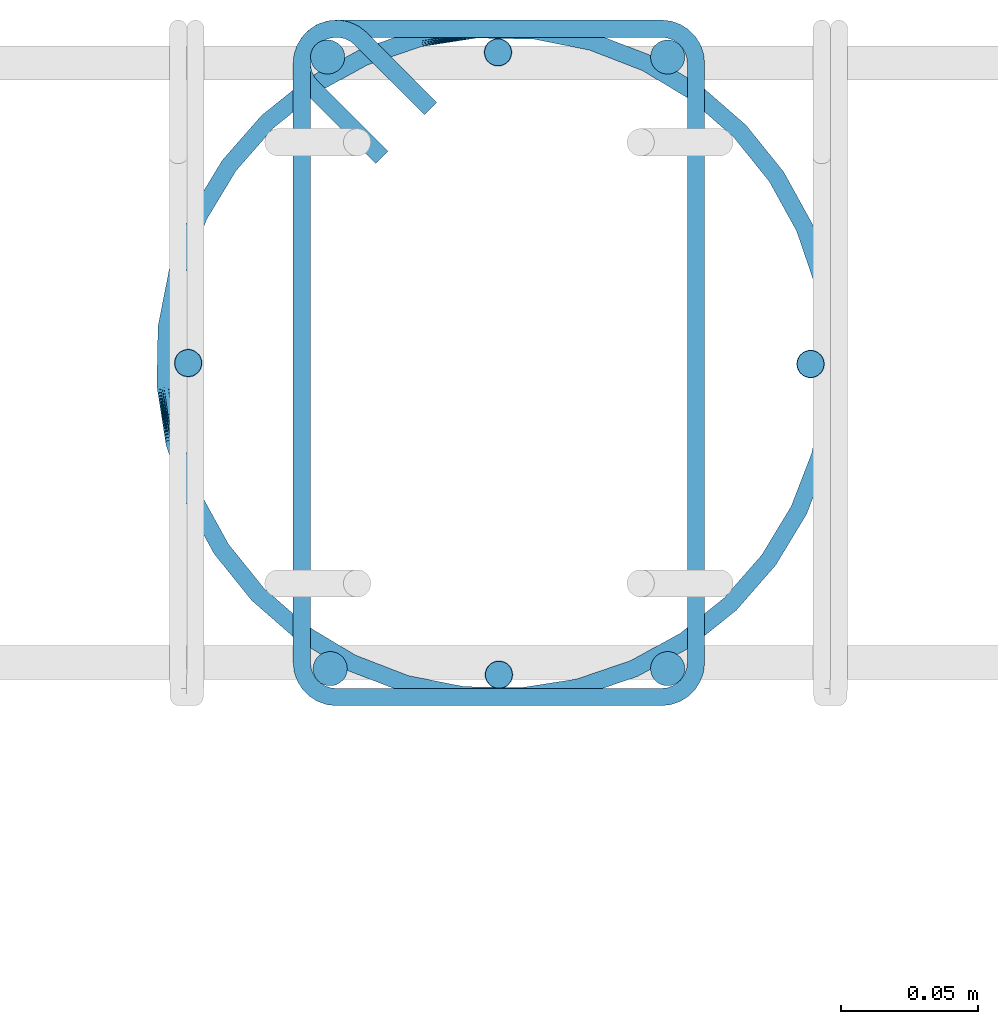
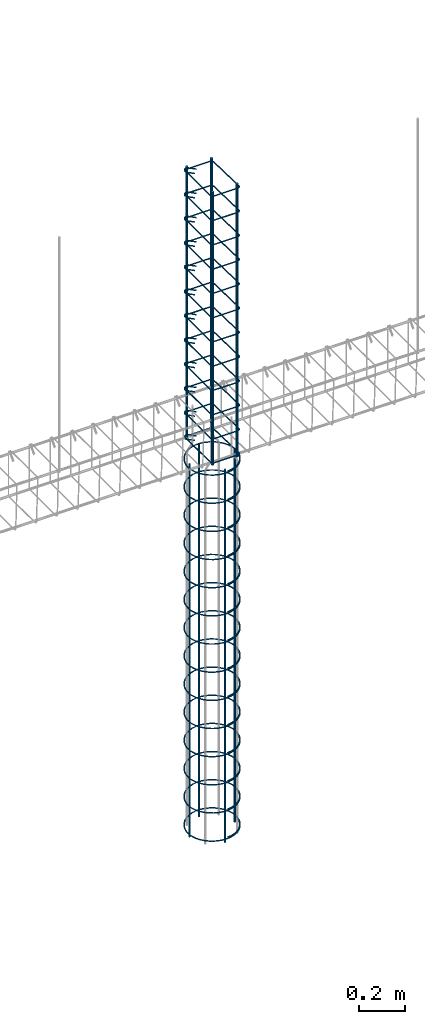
# One storey, part 6 of 14: 6 reinforcing bars.
"""IFC4 building model written with IfcOpenShell, lengths in centimetres."""

from ifc_helpers import new_model, entity, si_unit, converted_unit, derived_unit, direction, frame, origin, place, context, subcontext, project, spatial, type_object, element, save


model = new_model("IFC4")

# Units and contexts
model_context = context("Model", 3, precision=0.001, world=origin(), true_north=direction((6.123233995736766e-17, 1.0)))
body_context = subcontext(model_context, "Body", "Model", "MODEL_VIEW")
ifc_project = project(units=[si_unit("LENGTHUNIT", "METRE", prefix="CENTI"), si_unit("AREAUNIT", "SQUARE_METRE"), converted_unit("PLANEANGLEUNIT", "DEGREE", entity("IfcPlaneAngleMeasure", 0.017453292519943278), si_unit("PLANEANGLEUNIT", "RADIAN"), dimensions=[0, 0, 0, 0, 0, 0, 0]), si_unit("VOLUMEUNIT", "CUBIC_METRE"), derived_unit("THERMALTRANSMITTANCEUNIT", [(si_unit("MASSUNIT", "GRAM", prefix="KILO"), 1), (si_unit("THERMODYNAMICTEMPERATUREUNIT", "KELVIN"), -1), (si_unit("TIMEUNIT", "SECOND"), -3)])], contexts=[model_context])

# Site, building, storey
site_placement = place(None, origin())
site = spatial("IfcSite", under=ifc_project, at=site_placement, Name="Default", CompositionType="ELEMENT")
building_placement = place(site_placement, origin())
building = spatial("IfcBuilding", under=site, at=building_placement, Name="CONTENÇÃO DE ARQUIBANCADA - GINÁSIO PADRÃO", CompositionType="ELEMENT")
storey_placement = place(building_placement, frame((0.0, 0.0, -100.0)))
storey = spatial("IfcBuildingStorey", under=building, at=storey_placement, Name="Nível 3", CompositionType="ELEMENT", Elevation=-100.0)

# Reinforcing bars
reinforcing_bar_type_1 = type_object("IfcReinforcingBarType", Name="Barra do vergalhão:10 CA-50", PredefinedType="NOTDEFINED")
reinforcing_bar_1_placement = place(storey_placement, origin())
element("IfcReinforcingBar", 1, at=reinforcing_bar_1_placement, inside=storey, type_object=reinforcing_bar_type_1, Name="Barra do vergalhão:10 CA-50 : Forma 01", ObjectType="Barra do vergalhão:10 CA-50", context=body_context, shape_type="AdvancedSweptSolid", body=[
    entity("IfcSweptDiskSolid", entity("IfcIndexedPolyCurve", entity("IfcCartesianPointList3D", [[183.12673343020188, 249.06545923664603, -129.99999999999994], [183.12673343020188, 249.06545923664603, 68.00000000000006]]), None, False), 0.5, None, 0.0, 1.0),
    entity("IfcSweptDiskSolid", entity("IfcIndexedPolyCurve", entity("IfcCartesianPointList3D", [[205.81660058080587, 249.0327573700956, -129.99999999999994], [205.81660058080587, 249.0327573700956, 68.00000000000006]]), None, False), 0.5, None, 0.0, 1.0),
])
reinforcing_bar_2_placement = place(storey_placement, origin())
element("IfcReinforcingBar", 2, at=reinforcing_bar_2_placement, inside=storey, type_object=reinforcing_bar_type_1, Name="Barra do vergalhão:10 CA-50 : Forma 01", ObjectType="Barra do vergalhão:10 CA-50", context=body_context, shape_type="AdvancedSweptSolid", body=[
    entity("IfcSweptDiskSolid", entity("IfcIndexedPolyCurve", entity("IfcCartesianPointList3D", [[194.4226142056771, 260.39404187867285, -129.99999999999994], [194.4226142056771, 260.39404187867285, 68.00000000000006]]), None, False), 0.5, None, 0.0, 1.0),
    entity("IfcSweptDiskSolid", entity("IfcIndexedPolyCurve", entity("IfcCartesianPointList3D", [[194.45531607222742, 237.70417472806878, -129.99999999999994], [194.45531607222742, 237.70417472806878, 68.00000000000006]]), None, False), 0.5, None, 0.0, 1.0),
])
reinforcing_bar_type_2 = type_object("IfcReinforcingBarType", Name="Barra do vergalhão:12.5 CA-50", PredefinedType="NOTDEFINED")
reinforcing_bar_3_placement = place(storey_placement, origin())
element("IfcReinforcingBar", 3, at=reinforcing_bar_3_placement, inside=storey, type_object=reinforcing_bar_type_2, Name="Barra do vergalhão:12.5 CA-50 : Forma 01", ObjectType="Barra do vergalhão:12.5 CA-50", context=body_context, shape_type="AdvancedSweptSolid", body=[
    entity("IfcSweptDiskSolid", entity("IfcIndexedPolyCurve", entity("IfcCartesianPointList3D", [[200.60659024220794, 260.22544939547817, 72.5], [200.60659024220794, 260.22544939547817, 217.5]]), None, False), 0.625, None, 0.0, 1.0),
    entity("IfcSweptDiskSolid", entity("IfcIndexedPolyCurve", entity("IfcCartesianPointList3D", [[188.21031607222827, 260.22544939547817, 72.5], [188.21031607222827, 260.22544939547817, 217.5]]), None, False), 0.625, None, 0.0, 1.0),
])
reinforcing_bar_4_placement = place(storey_placement, origin())
element("IfcReinforcingBar", 4, at=reinforcing_bar_4_placement, inside=storey, type_object=reinforcing_bar_type_2, Name="Barra do vergalhão:12.5 CA-50 : Forma 01", ObjectType="Barra do vergalhão:12.5 CA-50", context=body_context, shape_type="AdvancedSweptSolid", body=[
    entity("IfcSweptDiskSolid", entity("IfcIndexedPolyCurve", entity("IfcCartesianPointList3D", [[188.30404190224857, 237.92290105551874, 72.5], [188.30404190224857, 237.92290105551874, 217.5]]), None, False), 0.625, None, 0.0, 1.0),
    entity("IfcSweptDiskSolid", entity("IfcIndexedPolyCurve", entity("IfcCartesianPointList3D", [[200.60659024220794, 237.92290105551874, 72.5], [200.60659024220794, 237.92290105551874, 217.5]]), None, False), 0.625, None, 0.0, 1.0),
])
reinforcing_bar_type_3 = type_object("IfcReinforcingBarType", Name="Barra do vergalhão:6.3 CA-50", PredefinedType="NOTDEFINED")
reinforcing_bar_5_placement = place(storey_placement, origin())
element("IfcReinforcingBar", 5, at=reinforcing_bar_5_placement, inside=storey, type_object=reinforcing_bar_type_3, Name="Barra do vergalhão:6.3 CA-50 : Forma 22", ObjectType="Barra do vergalhão:6.3 CA-50", context=body_context, shape_type="AdvancedSweptSolid", body=[
    entity("IfcSweptDiskSolid", entity("IfcIndexedPolyCurve", entity("IfcCartesianPointList3D", [[191.97123551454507, 258.34016487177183, 74.0272184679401], [189.42127061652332, 260.8901297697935, 74.0272184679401], [188.04813494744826, 261.16326343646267, 74.0272184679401], [187.27031607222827, 259.99917522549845, 74.0272184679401], [187.27031607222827, 238.14917522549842, 74.0272184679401], [187.6393615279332, 237.2582206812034, 74.0272184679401], [188.5303160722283, 236.88917522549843, 74.0272184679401], [200.38031607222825, 236.88917522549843, 74.0272184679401], [201.27127061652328, 237.25809742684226, 74.01768129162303], [201.64031607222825, 238.14875440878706, 73.99465651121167], [201.64031607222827, 259.9995960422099, 73.42978042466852], [201.2712706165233, 260.8902530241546, 73.40675564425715], [200.38031607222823, 261.2591752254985, 73.39721846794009], [188.53031607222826, 261.25917522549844, 73.39721846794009], [187.36622786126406, 260.4813563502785, 73.39721846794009], [187.63936152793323, 259.1082206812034, 73.39721846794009], [190.18932642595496, 256.55825578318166, 73.39721846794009]]), [entity("IfcLineIndex", [1, 2]), entity("IfcArcIndex", [2, 3, 4]), entity("IfcLineIndex", [4, 5]), entity("IfcArcIndex", [5, 6, 7]), entity("IfcLineIndex", [7, 8]), entity("IfcArcIndex", [8, 9, 10]), entity("IfcLineIndex", [10, 11]), entity("IfcArcIndex", [11, 12, 13]), entity("IfcLineIndex", [13, 14]), entity("IfcArcIndex", [14, 15, 16]), entity("IfcLineIndex", [16, 17])], False), 0.31499999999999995, None, 0.0, 546.0000000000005),
    entity("IfcSweptDiskSolid", entity("IfcIndexedPolyCurve", entity("IfcCartesianPointList3D", [[191.97123551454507, 258.34016487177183, 86.91060517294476], [189.42127061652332, 260.8901297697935, 86.91060517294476], [188.04813494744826, 261.16326343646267, 86.91060517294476], [187.27031607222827, 259.99917522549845, 86.91060517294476], [187.27031607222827, 238.14917522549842, 86.91060517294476], [187.6393615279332, 237.2582206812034, 86.91060517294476], [188.5303160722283, 236.88917522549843, 86.91060517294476], [200.38031607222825, 236.88917522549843, 86.91060517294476], [201.27127061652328, 237.25809742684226, 86.9010679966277], [201.64031607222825, 238.14875440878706, 86.87804321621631], [201.64031607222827, 259.9995960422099, 86.31316712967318], [201.2712706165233, 260.8902530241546, 86.29014234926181], [200.38031607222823, 261.2591752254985, 86.28060517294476], [188.53031607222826, 261.25917522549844, 86.28060517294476], [187.36622786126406, 260.4813563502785, 86.28060517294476], [187.63936152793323, 259.1082206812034, 86.28060517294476], [190.18932642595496, 256.55825578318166, 86.28060517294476]]), [entity("IfcLineIndex", [1, 2]), entity("IfcArcIndex", [2, 3, 4]), entity("IfcLineIndex", [4, 5]), entity("IfcArcIndex", [5, 6, 7]), entity("IfcLineIndex", [7, 8]), entity("IfcArcIndex", [8, 9, 10]), entity("IfcLineIndex", [10, 11]), entity("IfcArcIndex", [11, 12, 13]), entity("IfcLineIndex", [13, 14]), entity("IfcArcIndex", [14, 15, 16]), entity("IfcLineIndex", [16, 17])], False), 0.31499999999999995, None, 0.0, 546.0000000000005),
    entity("IfcSweptDiskSolid", entity("IfcIndexedPolyCurve", entity("IfcCartesianPointList3D", [[191.97123551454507, 258.34016487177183, 99.79399187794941], [189.42127061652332, 260.8901297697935, 99.79399187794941], [188.04813494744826, 261.16326343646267, 99.79399187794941], [187.27031607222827, 259.99917522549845, 99.79399187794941], [187.27031607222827, 238.14917522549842, 99.79399187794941], [187.6393615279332, 237.2582206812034, 99.79399187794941], [188.5303160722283, 236.88917522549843, 99.79399187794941], [200.38031607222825, 236.88917522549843, 99.79399187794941], [201.27127061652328, 237.25809742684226, 99.78445470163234], [201.64031607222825, 238.14875440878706, 99.76142992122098], [201.64031607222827, 259.9995960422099, 99.19655383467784], [201.2712706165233, 260.8902530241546, 99.17352905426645], [200.38031607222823, 261.2591752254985, 99.1639918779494], [188.53031607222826, 261.25917522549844, 99.1639918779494], [187.36622786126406, 260.4813563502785, 99.1639918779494], [187.63936152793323, 259.1082206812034, 99.1639918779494], [190.18932642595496, 256.55825578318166, 99.1639918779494]]), [entity("IfcLineIndex", [1, 2]), entity("IfcArcIndex", [2, 3, 4]), entity("IfcLineIndex", [4, 5]), entity("IfcArcIndex", [5, 6, 7]), entity("IfcLineIndex", [7, 8]), entity("IfcArcIndex", [8, 9, 10]), entity("IfcLineIndex", [10, 11]), entity("IfcArcIndex", [11, 12, 13]), entity("IfcLineIndex", [13, 14]), entity("IfcArcIndex", [14, 15, 16]), entity("IfcLineIndex", [16, 17])], False), 0.31499999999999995, None, 0.0, 546.0000000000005),
    entity("IfcSweptDiskSolid", entity("IfcIndexedPolyCurve", entity("IfcCartesianPointList3D", [[191.97123551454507, 258.34016487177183, 112.67737858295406], [189.42127061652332, 260.8901297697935, 112.67737858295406], [188.04813494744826, 261.16326343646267, 112.67737858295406], [187.27031607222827, 259.99917522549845, 112.67737858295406], [187.27031607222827, 238.14917522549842, 112.67737858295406], [187.6393615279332, 237.2582206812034, 112.67737858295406], [188.5303160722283, 236.88917522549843, 112.67737858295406], [200.38031607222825, 236.88917522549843, 112.67737858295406], [201.27127061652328, 237.25809742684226, 112.66784140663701], [201.64031607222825, 238.14875440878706, 112.64481662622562], [201.64031607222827, 259.9995960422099, 112.07994053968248], [201.2712706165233, 260.8902530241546, 112.05691575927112], [200.38031607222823, 261.2591752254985, 112.04737858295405], [188.53031607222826, 261.25917522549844, 112.04737858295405], [187.36622786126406, 260.4813563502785, 112.04737858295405], [187.63936152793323, 259.1082206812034, 112.04737858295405], [190.18932642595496, 256.55825578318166, 112.04737858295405]]), [entity("IfcLineIndex", [1, 2]), entity("IfcArcIndex", [2, 3, 4]), entity("IfcLineIndex", [4, 5]), entity("IfcArcIndex", [5, 6, 7]), entity("IfcLineIndex", [7, 8]), entity("IfcArcIndex", [8, 9, 10]), entity("IfcLineIndex", [10, 11]), entity("IfcArcIndex", [11, 12, 13]), entity("IfcLineIndex", [13, 14]), entity("IfcArcIndex", [14, 15, 16]), entity("IfcLineIndex", [16, 17])], False), 0.31499999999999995, None, 0.0, 546.0000000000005),
    entity("IfcSweptDiskSolid", entity("IfcIndexedPolyCurve", entity("IfcCartesianPointList3D", [[191.97123551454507, 258.34016487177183, 125.56076528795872], [189.42127061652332, 260.8901297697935, 125.56076528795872], [188.04813494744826, 261.16326343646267, 125.56076528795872], [187.27031607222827, 259.99917522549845, 125.56076528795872], [187.27031607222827, 238.14917522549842, 125.56076528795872], [187.6393615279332, 237.2582206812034, 125.56076528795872], [188.5303160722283, 236.88917522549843, 125.56076528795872], [200.38031607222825, 236.88917522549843, 125.56076528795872], [201.27127061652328, 237.25809742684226, 125.55122811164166], [201.64031607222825, 238.14875440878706, 125.52820333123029], [201.64031607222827, 259.9995960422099, 124.96332724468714], [201.2712706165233, 260.8902530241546, 124.94030246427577], [200.38031607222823, 261.2591752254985, 124.93076528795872], [188.53031607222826, 261.25917522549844, 124.93076528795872], [187.36622786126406, 260.4813563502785, 124.93076528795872], [187.63936152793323, 259.1082206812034, 124.93076528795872], [190.18932642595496, 256.55825578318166, 124.93076528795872]]), [entity("IfcLineIndex", [1, 2]), entity("IfcArcIndex", [2, 3, 4]), entity("IfcLineIndex", [4, 5]), entity("IfcArcIndex", [5, 6, 7]), entity("IfcLineIndex", [7, 8]), entity("IfcArcIndex", [8, 9, 10]), entity("IfcLineIndex", [10, 11]), entity("IfcArcIndex", [11, 12, 13]), entity("IfcLineIndex", [13, 14]), entity("IfcArcIndex", [14, 15, 16]), entity("IfcLineIndex", [16, 17])], False), 0.31499999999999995, None, 0.0, 546.0000000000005),
    entity("IfcSweptDiskSolid", entity("IfcIndexedPolyCurve", entity("IfcCartesianPointList3D", [[191.97123551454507, 258.34016487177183, 138.44415199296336], [189.42127061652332, 260.8901297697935, 138.44415199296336], [188.04813494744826, 261.16326343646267, 138.44415199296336], [187.27031607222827, 259.99917522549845, 138.44415199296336], [187.27031607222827, 238.14917522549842, 138.44415199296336], [187.6393615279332, 237.2582206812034, 138.44415199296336], [188.5303160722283, 236.88917522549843, 138.44415199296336], [200.38031607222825, 236.88917522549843, 138.44415199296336], [201.27127061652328, 237.25809742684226, 138.43461481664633], [201.64031607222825, 238.14875440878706, 138.41159003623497], [201.64031607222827, 259.9995960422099, 137.8467139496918], [201.2712706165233, 260.8902530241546, 137.8236891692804], [200.38031607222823, 261.2591752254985, 137.8141519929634], [188.53031607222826, 261.25917522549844, 137.8141519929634], [187.36622786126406, 260.4813563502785, 137.8141519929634], [187.63936152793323, 259.1082206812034, 137.8141519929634], [190.18932642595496, 256.55825578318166, 137.8141519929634]]), [entity("IfcLineIndex", [1, 2]), entity("IfcArcIndex", [2, 3, 4]), entity("IfcLineIndex", [4, 5]), entity("IfcArcIndex", [5, 6, 7]), entity("IfcLineIndex", [7, 8]), entity("IfcArcIndex", [8, 9, 10]), entity("IfcLineIndex", [10, 11]), entity("IfcArcIndex", [11, 12, 13]), entity("IfcLineIndex", [13, 14]), entity("IfcArcIndex", [14, 15, 16]), entity("IfcLineIndex", [16, 17])], False), 0.31499999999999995, None, 0.0, 546.0000000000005),
    entity("IfcSweptDiskSolid", entity("IfcIndexedPolyCurve", entity("IfcCartesianPointList3D", [[191.97123551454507, 258.34016487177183, 151.327538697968], [189.42127061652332, 260.8901297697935, 151.327538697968], [188.04813494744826, 261.16326343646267, 151.327538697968], [187.27031607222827, 259.99917522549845, 151.327538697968], [187.27031607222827, 238.14917522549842, 151.327538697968], [187.6393615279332, 237.2582206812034, 151.327538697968], [188.5303160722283, 236.88917522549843, 151.327538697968], [200.38031607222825, 236.88917522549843, 151.327538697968], [201.27127061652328, 237.25809742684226, 151.31800152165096], [201.64031607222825, 238.14875440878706, 151.2949767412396], [201.64031607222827, 259.9995960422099, 150.73010065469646], [201.2712706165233, 260.8902530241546, 150.70707587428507], [200.38031607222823, 261.2591752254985, 150.697538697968], [188.53031607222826, 261.25917522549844, 150.697538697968], [187.36622786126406, 260.4813563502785, 150.697538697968], [187.63936152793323, 259.1082206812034, 150.697538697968], [190.18932642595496, 256.55825578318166, 150.697538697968]]), [entity("IfcLineIndex", [1, 2]), entity("IfcArcIndex", [2, 3, 4]), entity("IfcLineIndex", [4, 5]), entity("IfcArcIndex", [5, 6, 7]), entity("IfcLineIndex", [7, 8]), entity("IfcArcIndex", [8, 9, 10]), entity("IfcLineIndex", [10, 11]), entity("IfcArcIndex", [11, 12, 13]), entity("IfcLineIndex", [13, 14]), entity("IfcArcIndex", [14, 15, 16]), entity("IfcLineIndex", [16, 17])], False), 0.31499999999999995, None, 0.0, 546.0000000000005),
    entity("IfcSweptDiskSolid", entity("IfcIndexedPolyCurve", entity("IfcCartesianPointList3D", [[191.97123551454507, 258.34016487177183, 164.2109254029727], [189.42127061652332, 260.8901297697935, 164.2109254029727], [188.04813494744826, 261.16326343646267, 164.2109254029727], [187.27031607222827, 259.99917522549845, 164.2109254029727], [187.27031607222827, 238.14917522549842, 164.2109254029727], [187.6393615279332, 237.2582206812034, 164.2109254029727], [188.5303160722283, 236.88917522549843, 164.2109254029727], [200.38031607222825, 236.88917522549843, 164.2109254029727], [201.27127061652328, 237.25809742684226, 164.20138822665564], [201.64031607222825, 238.14875440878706, 164.17836344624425], [201.64031607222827, 259.9995960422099, 163.6134873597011], [201.2712706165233, 260.8902530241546, 163.59046257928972], [200.38031607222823, 261.2591752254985, 163.5809254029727], [188.53031607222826, 261.25917522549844, 163.5809254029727], [187.36622786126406, 260.4813563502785, 163.5809254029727], [187.63936152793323, 259.1082206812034, 163.5809254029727], [190.18932642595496, 256.55825578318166, 163.5809254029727]]), [entity("IfcLineIndex", [1, 2]), entity("IfcArcIndex", [2, 3, 4]), entity("IfcLineIndex", [4, 5]), entity("IfcArcIndex", [5, 6, 7]), entity("IfcLineIndex", [7, 8]), entity("IfcArcIndex", [8, 9, 10]), entity("IfcLineIndex", [10, 11]), entity("IfcArcIndex", [11, 12, 13]), entity("IfcLineIndex", [13, 14]), entity("IfcArcIndex", [14, 15, 16]), entity("IfcLineIndex", [16, 17])], False), 0.31499999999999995, None, 0.0, 546.0000000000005),
    entity("IfcSweptDiskSolid", entity("IfcIndexedPolyCurve", entity("IfcCartesianPointList3D", [[191.97123551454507, 258.34016487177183, 177.09431210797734], [189.42127061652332, 260.8901297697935, 177.09431210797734], [188.04813494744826, 261.16326343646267, 177.09431210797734], [187.27031607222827, 259.99917522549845, 177.09431210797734], [187.27031607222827, 238.14917522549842, 177.09431210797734], [187.6393615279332, 237.2582206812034, 177.09431210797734], [188.5303160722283, 236.88917522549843, 177.09431210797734], [200.38031607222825, 236.88917522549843, 177.09431210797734], [201.27127061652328, 237.25809742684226, 177.0847749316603], [201.64031607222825, 238.14875440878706, 177.0617501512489], [201.64031607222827, 259.9995960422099, 176.49687406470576], [201.2712706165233, 260.8902530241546, 176.4738492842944], [200.38031607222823, 261.2591752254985, 176.46431210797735], [188.53031607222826, 261.25917522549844, 176.46431210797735], [187.36622786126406, 260.4813563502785, 176.46431210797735], [187.63936152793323, 259.1082206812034, 176.46431210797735], [190.18932642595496, 256.55825578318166, 176.46431210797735]]), [entity("IfcLineIndex", [1, 2]), entity("IfcArcIndex", [2, 3, 4]), entity("IfcLineIndex", [4, 5]), entity("IfcArcIndex", [5, 6, 7]), entity("IfcLineIndex", [7, 8]), entity("IfcArcIndex", [8, 9, 10]), entity("IfcLineIndex", [10, 11]), entity("IfcArcIndex", [11, 12, 13]), entity("IfcLineIndex", [13, 14]), entity("IfcArcIndex", [14, 15, 16]), entity("IfcLineIndex", [16, 17])], False), 0.31499999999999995, None, 0.0, 546.0000000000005),
    entity("IfcSweptDiskSolid", entity("IfcIndexedPolyCurve", entity("IfcCartesianPointList3D", [[191.97123551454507, 258.34016487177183, 189.97769881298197], [189.42127061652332, 260.8901297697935, 189.97769881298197], [188.04813494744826, 261.16326343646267, 189.97769881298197], [187.27031607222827, 259.99917522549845, 189.97769881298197], [187.27031607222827, 238.14917522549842, 189.97769881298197], [187.6393615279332, 237.2582206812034, 189.97769881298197], [188.5303160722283, 236.88917522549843, 189.97769881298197], [200.38031607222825, 236.88917522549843, 189.977698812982], [201.27127061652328, 237.25809742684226, 189.96816163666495], [201.64031607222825, 238.14875440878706, 189.94513685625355], [201.64031607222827, 259.9995960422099, 189.38026076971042], [201.2712706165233, 260.8902530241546, 189.35723598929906], [200.38031607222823, 261.2591752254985, 189.347698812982], [188.53031607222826, 261.25917522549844, 189.347698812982], [187.36622786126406, 260.4813563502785, 189.347698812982], [187.63936152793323, 259.1082206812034, 189.347698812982], [190.18932642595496, 256.55825578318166, 189.347698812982]]), [entity("IfcLineIndex", [1, 2]), entity("IfcArcIndex", [2, 3, 4]), entity("IfcLineIndex", [4, 5]), entity("IfcArcIndex", [5, 6, 7]), entity("IfcLineIndex", [7, 8]), entity("IfcArcIndex", [8, 9, 10]), entity("IfcLineIndex", [10, 11]), entity("IfcArcIndex", [11, 12, 13]), entity("IfcLineIndex", [13, 14]), entity("IfcArcIndex", [14, 15, 16]), entity("IfcLineIndex", [16, 17])], False), 0.31499999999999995, None, 0.0, 546.0000000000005),
    entity("IfcSweptDiskSolid", entity("IfcIndexedPolyCurve", entity("IfcCartesianPointList3D", [[191.97123551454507, 258.34016487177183, 202.86108551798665], [189.42127061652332, 260.8901297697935, 202.86108551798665], [188.04813494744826, 261.16326343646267, 202.86108551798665], [187.27031607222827, 259.99917522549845, 202.86108551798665], [187.27031607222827, 238.14917522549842, 202.86108551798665], [187.6393615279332, 237.2582206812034, 202.86108551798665], [188.5303160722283, 236.88917522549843, 202.86108551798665], [200.38031607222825, 236.88917522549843, 202.86108551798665], [201.27127061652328, 237.25809742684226, 202.8515483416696], [201.64031607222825, 238.14875440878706, 202.82852356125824], [201.64031607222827, 259.9995960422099, 202.26364747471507], [201.2712706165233, 260.8902530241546, 202.24062269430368], [200.38031607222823, 261.2591752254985, 202.23108551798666], [188.53031607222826, 261.25917522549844, 202.23108551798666], [187.36622786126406, 260.4813563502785, 202.23108551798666], [187.63936152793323, 259.1082206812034, 202.23108551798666], [190.18932642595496, 256.55825578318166, 202.23108551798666]]), [entity("IfcLineIndex", [1, 2]), entity("IfcArcIndex", [2, 3, 4]), entity("IfcLineIndex", [4, 5]), entity("IfcArcIndex", [5, 6, 7]), entity("IfcLineIndex", [7, 8]), entity("IfcArcIndex", [8, 9, 10]), entity("IfcLineIndex", [10, 11]), entity("IfcArcIndex", [11, 12, 13]), entity("IfcLineIndex", [13, 14]), entity("IfcArcIndex", [14, 15, 16]), entity("IfcLineIndex", [16, 17])], False), 0.31499999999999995, None, 0.0, 546.0000000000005),
    entity("IfcSweptDiskSolid", entity("IfcIndexedPolyCurve", entity("IfcCartesianPointList3D", [[191.97123551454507, 258.34016487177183, 215.7444722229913], [189.42127061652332, 260.8901297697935, 215.7444722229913], [188.04813494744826, 261.16326343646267, 215.7444722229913], [187.27031607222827, 259.99917522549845, 215.7444722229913], [187.27031607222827, 238.14917522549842, 215.7444722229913], [187.6393615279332, 237.2582206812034, 215.7444722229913], [188.5303160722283, 236.88917522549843, 215.7444722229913], [200.38031607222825, 236.88917522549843, 215.7444722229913], [201.27127061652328, 237.25809742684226, 215.73493504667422], [201.64031607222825, 238.14875440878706, 215.71191026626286], [201.64031607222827, 259.9995960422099, 215.14703417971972], [201.2712706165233, 260.8902530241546, 215.12400939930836], [200.38031607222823, 261.2591752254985, 215.11447222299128], [188.53031607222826, 261.25917522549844, 215.11447222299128], [187.36622786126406, 260.4813563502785, 215.11447222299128], [187.63936152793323, 259.1082206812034, 215.11447222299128], [190.18932642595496, 256.55825578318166, 215.11447222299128]]), [entity("IfcLineIndex", [1, 2]), entity("IfcArcIndex", [2, 3, 4]), entity("IfcLineIndex", [4, 5]), entity("IfcArcIndex", [5, 6, 7]), entity("IfcLineIndex", [7, 8]), entity("IfcArcIndex", [8, 9, 10]), entity("IfcLineIndex", [10, 11]), entity("IfcArcIndex", [11, 12, 13]), entity("IfcLineIndex", [13, 14]), entity("IfcArcIndex", [14, 15, 16]), entity("IfcLineIndex", [16, 17])], False), 0.31499999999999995, None, 0.0, 546.0000000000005),
])
reinforcing_bar_6_placement = place(storey_placement, origin())
element("IfcReinforcingBar", 6, at=reinforcing_bar_6_placement, inside=storey, type_object=reinforcing_bar_type_3, Name="Barra do vergalhão:6.3 CA-50 : Forma 33", ObjectType="Barra do vergalhão:6.3 CA-50", context=body_context, shape_type="AdvancedSweptSolid", body=[
    entity("IfcSweptDiskSolid", entity("IfcIndexedPolyCurve", entity("IfcCartesianPointList3D", [[195.2748352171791, 236.91676541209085, -127.19078734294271], [206.61272588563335, 249.89369437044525, -127.19078734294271], [193.635796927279, 261.23158503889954, -127.19078734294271], [185.27924160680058, 257.091274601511, -127.50578734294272], [182.29790625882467, 248.25465608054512, -127.82078734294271], [195.2748352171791, 236.91676541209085, -127.82078734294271], [206.61272588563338, 249.8936943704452, -127.82078734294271]]), [entity("IfcArcIndex", [1, 2, 3]), entity("IfcArcIndex", [3, 4, 5]), entity("IfcArcIndex", [5, 6, 7])], False), 0.31499999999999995, None, 0.0, 449.9458977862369),
    entity("IfcSweptDiskSolid", entity("IfcIndexedPolyCurve", entity("IfcCartesianPointList3D", [[195.2748352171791, 236.91676541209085, -112.23880370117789], [206.61272588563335, 249.89369437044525, -112.23880370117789], [193.635796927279, 261.23158503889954, -112.23880370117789], [185.27924160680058, 257.091274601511, -112.5538037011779], [182.29790625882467, 248.25465608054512, -112.86880370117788], [195.2748352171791, 236.91676541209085, -112.86880370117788], [206.61272588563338, 249.8936943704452, -112.86880370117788]]), [entity("IfcArcIndex", [1, 2, 3]), entity("IfcArcIndex", [3, 4, 5]), entity("IfcArcIndex", [5, 6, 7])], False), 0.31499999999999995, None, 0.0, 449.9458977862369),
    entity("IfcSweptDiskSolid", entity("IfcIndexedPolyCurve", entity("IfcCartesianPointList3D", [[195.2748352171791, 236.91676541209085, -97.28682005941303], [206.61272588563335, 249.89369437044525, -97.28682005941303], [193.635796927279, 261.23158503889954, -97.28682005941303], [185.27924160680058, 257.091274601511, -97.60182005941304], [182.29790625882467, 248.25465608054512, -97.91682005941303], [195.2748352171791, 236.91676541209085, -97.91682005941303], [206.61272588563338, 249.8936943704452, -97.91682005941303]]), [entity("IfcArcIndex", [1, 2, 3]), entity("IfcArcIndex", [3, 4, 5]), entity("IfcArcIndex", [5, 6, 7])], False), 0.31499999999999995, None, 0.0, 449.9458977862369),
    entity("IfcSweptDiskSolid", entity("IfcIndexedPolyCurve", entity("IfcCartesianPointList3D", [[195.2748352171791, 236.91676541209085, -82.33483641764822], [206.61272588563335, 249.89369437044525, -82.33483641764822], [193.635796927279, 261.23158503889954, -82.33483641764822], [185.27924160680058, 257.091274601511, -82.64983641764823], [182.29790625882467, 248.25465608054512, -82.9648364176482], [195.2748352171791, 236.91676541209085, -82.9648364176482], [206.61272588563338, 249.8936943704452, -82.9648364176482]]), [entity("IfcArcIndex", [1, 2, 3]), entity("IfcArcIndex", [3, 4, 5]), entity("IfcArcIndex", [5, 6, 7])], False), 0.31499999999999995, None, 0.0, 449.9458977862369),
    entity("IfcSweptDiskSolid", entity("IfcIndexedPolyCurve", entity("IfcCartesianPointList3D", [[195.2748352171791, 236.91676541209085, -67.38285277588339], [206.61272588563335, 249.89369437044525, -67.38285277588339], [193.635796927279, 261.23158503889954, -67.38285277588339], [185.27924160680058, 257.091274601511, -67.6978527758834], [182.29790625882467, 248.25465608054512, -68.01285277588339], [195.2748352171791, 236.91676541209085, -68.01285277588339], [206.61272588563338, 249.8936943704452, -68.01285277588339]]), [entity("IfcArcIndex", [1, 2, 3]), entity("IfcArcIndex", [3, 4, 5]), entity("IfcArcIndex", [5, 6, 7])], False), 0.31499999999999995, None, 0.0, 449.9458977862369),
    entity("IfcSweptDiskSolid", entity("IfcIndexedPolyCurve", entity("IfcCartesianPointList3D", [[195.2748352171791, 236.91676541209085, -52.43086913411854], [206.61272588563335, 249.89369437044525, -52.43086913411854], [193.635796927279, 261.23158503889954, -52.430869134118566], [185.27924160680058, 257.091274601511, -52.74586913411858], [182.29790625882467, 248.25465608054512, -53.06086913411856], [195.2748352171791, 236.91676541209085, -53.06086913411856], [206.61272588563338, 249.8936943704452, -53.06086913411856]]), [entity("IfcArcIndex", [1, 2, 3]), entity("IfcArcIndex", [3, 4, 5]), entity("IfcArcIndex", [5, 6, 7])], False), 0.31499999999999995, None, 0.0, 449.9458977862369),
    entity("IfcSweptDiskSolid", entity("IfcIndexedPolyCurve", entity("IfcCartesianPointList3D", [[195.2748352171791, 236.91676541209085, -37.47888549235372], [206.61272588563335, 249.89369437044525, -37.47888549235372], [193.635796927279, 261.23158503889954, -37.47888549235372], [185.27924160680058, 257.091274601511, -37.79388549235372], [182.29790625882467, 248.25465608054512, -38.10888549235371], [195.2748352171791, 236.91676541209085, -38.10888549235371], [206.61272588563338, 249.8936943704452, -38.10888549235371]]), [entity("IfcArcIndex", [1, 2, 3]), entity("IfcArcIndex", [3, 4, 5]), entity("IfcArcIndex", [5, 6, 7])], False), 0.31499999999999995, None, 0.0, 449.9458977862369),
    entity("IfcSweptDiskSolid", entity("IfcIndexedPolyCurve", entity("IfcCartesianPointList3D", [[195.2748352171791, 236.91676541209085, -22.526901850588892], [206.61272588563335, 249.89369437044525, -22.526901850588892], [193.635796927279, 261.23158503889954, -22.526901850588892], [185.27924160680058, 257.091274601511, -22.841901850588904], [182.29790625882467, 248.25465608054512, -23.156901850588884], [195.2748352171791, 236.91676541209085, -23.156901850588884], [206.61272588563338, 249.8936943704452, -23.156901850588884]]), [entity("IfcArcIndex", [1, 2, 3]), entity("IfcArcIndex", [3, 4, 5]), entity("IfcArcIndex", [5, 6, 7])], False), 0.31499999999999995, None, 0.0, 449.9458977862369),
    entity("IfcSweptDiskSolid", entity("IfcIndexedPolyCurve", entity("IfcCartesianPointList3D", [[195.2748352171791, 236.91676541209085, -7.574918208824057], [206.61272588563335, 249.89369437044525, -7.574918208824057], [193.635796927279, 261.23158503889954, -7.57491820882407], [185.27924160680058, 257.091274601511, -7.889918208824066], [182.29790625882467, 248.25465608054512, -8.204918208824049], [195.2748352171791, 236.91676541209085, -8.204918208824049], [206.61272588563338, 249.8936943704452, -8.204918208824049]]), [entity("IfcArcIndex", [1, 2, 3]), entity("IfcArcIndex", [3, 4, 5]), entity("IfcArcIndex", [5, 6, 7])], False), 0.31499999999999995, None, 0.0, 449.9458977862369),
    entity("IfcSweptDiskSolid", entity("IfcIndexedPolyCurve", entity("IfcCartesianPointList3D", [[195.2748352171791, 236.91676541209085, 7.37706543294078], [206.61272588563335, 249.89369437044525, 7.37706543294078], [193.635796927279, 261.23158503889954, 7.377065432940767], [185.27924160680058, 257.091274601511, 7.062065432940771], [182.29790625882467, 248.25465608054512, 6.747065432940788], [195.2748352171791, 236.91676541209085, 6.747065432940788], [206.61272588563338, 249.8936943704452, 6.747065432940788]]), [entity("IfcArcIndex", [1, 2, 3]), entity("IfcArcIndex", [3, 4, 5]), entity("IfcArcIndex", [5, 6, 7])], False), 0.31499999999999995, None, 0.0, 449.9458977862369),
    entity("IfcSweptDiskSolid", entity("IfcIndexedPolyCurve", entity("IfcCartesianPointList3D", [[195.2748352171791, 236.91676541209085, 22.329049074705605], [206.61272588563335, 249.89369437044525, 22.329049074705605], [193.635796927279, 261.23158503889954, 22.32904907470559], [185.27924160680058, 257.091274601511, 22.014049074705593], [182.29790625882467, 248.25465608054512, 21.699049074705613], [195.2748352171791, 236.91676541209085, 21.699049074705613], [206.61272588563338, 249.8936943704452, 21.699049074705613]]), [entity("IfcArcIndex", [1, 2, 3]), entity("IfcArcIndex", [3, 4, 5]), entity("IfcArcIndex", [5, 6, 7])], False), 0.31499999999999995, None, 0.0, 449.9458977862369),
    entity("IfcSweptDiskSolid", entity("IfcIndexedPolyCurve", entity("IfcCartesianPointList3D", [[195.2748352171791, 236.91676541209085, 37.28103271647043], [206.61272588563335, 249.89369437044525, 37.28103271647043], [193.635796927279, 261.23158503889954, 37.28103271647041], [185.27924160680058, 257.091274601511, 36.966032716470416], [182.29790625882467, 248.25465608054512, 36.65103271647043], [195.2748352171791, 236.91676541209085, 36.65103271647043], [206.61272588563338, 249.8936943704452, 36.65103271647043]]), [entity("IfcArcIndex", [1, 2, 3]), entity("IfcArcIndex", [3, 4, 5]), entity("IfcArcIndex", [5, 6, 7])], False), 0.31499999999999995, None, 0.0, 449.9458977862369),
    entity("IfcSweptDiskSolid", entity("IfcIndexedPolyCurve", entity("IfcCartesianPointList3D", [[195.2748352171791, 236.91676541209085, 52.233016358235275], [206.61272588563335, 249.89369437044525, 52.233016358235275], [193.635796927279, 261.23158503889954, 52.23301635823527], [185.27924160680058, 257.091274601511, 51.91801635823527], [182.29790625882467, 248.25465608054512, 51.60301635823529], [195.2748352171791, 236.91676541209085, 51.60301635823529], [206.61272588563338, 249.8936943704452, 51.60301635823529]]), [entity("IfcArcIndex", [1, 2, 3]), entity("IfcArcIndex", [3, 4, 5]), entity("IfcArcIndex", [5, 6, 7])], False), 0.31499999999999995, None, 0.0, 449.9458977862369),
    entity("IfcSweptDiskSolid", entity("IfcIndexedPolyCurve", entity("IfcCartesianPointList3D", [[195.2748352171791, 236.91676541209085, 67.1850000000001], [206.61272588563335, 249.89369437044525, 67.1850000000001], [193.635796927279, 261.23158503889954, 67.1850000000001], [185.27924160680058, 257.091274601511, 66.87000000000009], [182.29790625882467, 248.25465608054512, 66.5550000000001], [195.2748352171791, 236.91676541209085, 66.5550000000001], [206.61272588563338, 249.8936943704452, 66.5550000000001]]), [entity("IfcArcIndex", [1, 2, 3]), entity("IfcArcIndex", [3, 4, 5]), entity("IfcArcIndex", [5, 6, 7])], False), 0.31499999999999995, None, 0.0, 449.9458977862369),
])

save(model, "model.ifc")
